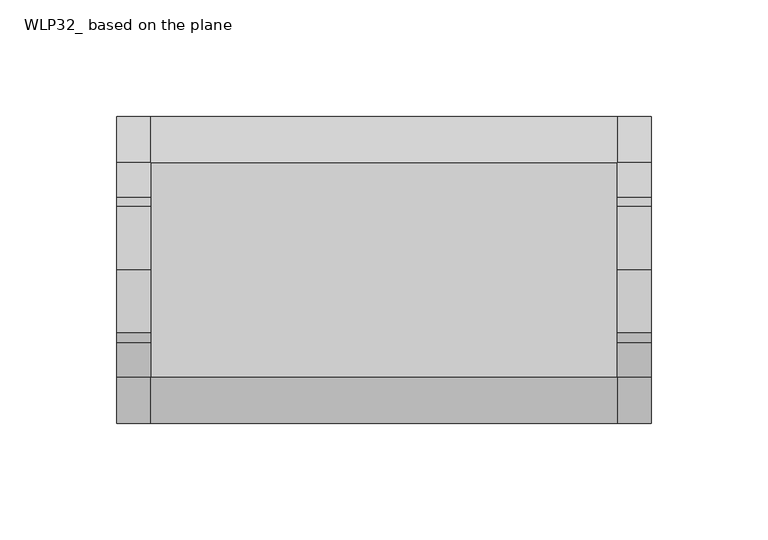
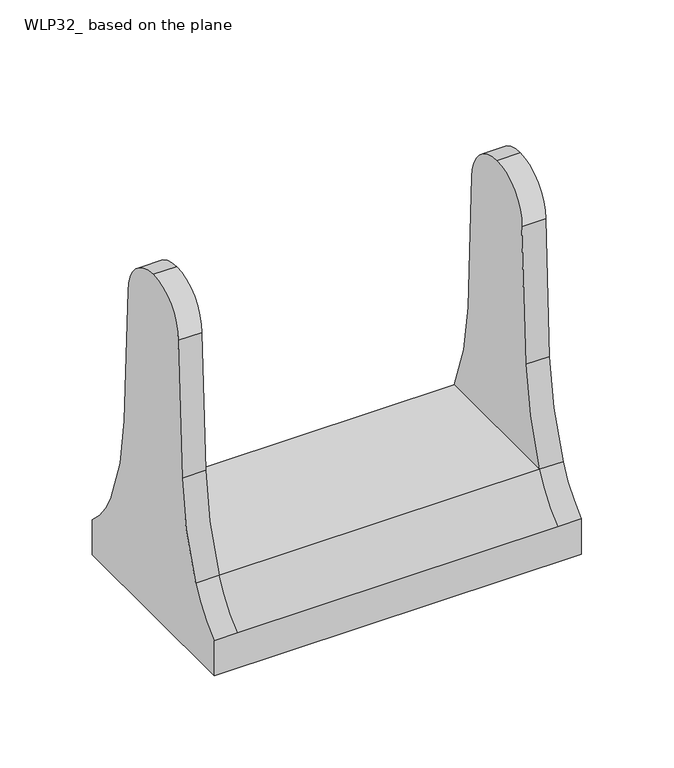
"""IFC4 building model written with IfcOpenShell, lengths in millimetres: light fixture geometry, WLP32_ based on the plane : WLP32-80W-T40."""

from ifc_helpers import new_model, si_unit, point, frame, frame_2d, origin, origin_2d, place, context, project, spatial, polyline, circle_curve, trimmed, segment, composite_curve, outline, extrude, source, transform, mapped, element, save
from ifc_brep_helpers import plane_surface, cylinder_surface, revolved_surface, advanced_brep


def wlp32_based_on_the_plane_f0408ee9(model_context):
    return source(origin(), model_context, "Body", "SolidModel", [
        extrude(outline(polyline([(-77.4999981, -46.0837738), (-77.4999981, 46.0837738), (77.4999252, 46.0837738), (77.4999252, -46.0837738), (-77.4999981, -46.0837738)]), holes=[composite_curve([segment(trimmed(circle_curve(origin_2d(), 25.0000305), [point((-9.5000019, 23.1246944))], [point((9.5000019, 23.1246944))], True, "CARTESIAN"), True, "CONTINUOUS"), segment(polyline([(9.5000019, 23.1246944), (9.5000019, 33.4999695)]), True, "CONTINUOUS"), segment(trimmed(circle_curve(frame_2d((0.0, 33.4999695)), 9.5000019), [point((9.5000019, 33.4999695))], [point((-9.5000019, 33.4999695))], True, "CARTESIAN"), True, "CONTINUOUS"), segment(polyline([(-9.5000019, 33.4999695), (-9.5000019, 23.1246944)]), True, "CONTINUOUS")], self_intersect=False), composite_curve([segment(polyline([(67.5000019, -37.5417709), (61.4419666, -37.5417709)]), True, "CONTINUOUS"), segment(trimmed(circle_curve(frame_2d((61.4419666, -40.0208969)), 2.479126), [point((61.4419666, -37.5417709))], [point((61.4419666, -42.5000229))], True, "CARTESIAN"), True, "CONTINUOUS"), segment(polyline([(61.4419666, -42.5000229), (67.5000019, -42.5000229)]), True, "CONTINUOUS"), segment(trimmed(circle_curve(frame_2d((67.5000019, -40.0208969)), 2.479126), [point((67.5000019, -42.5000229))], [point((67.5000019, -37.5417709))], True, "CARTESIAN"), True, "CONTINUOUS")], self_intersect=False), composite_curve([segment(trimmed(circle_curve(frame_2d((67.5000019, 40.0208969)), 2.479126), [point((67.5000019, 37.5417709))], [point((67.5000019, 42.5000229))], True, "CARTESIAN"), True, "CONTINUOUS"), segment(polyline([(67.5000019, 42.5000229), (61.4419666, 42.5000229)]), True, "CONTINUOUS"), segment(trimmed(circle_curve(frame_2d((61.4419666, 40.0208969)), 2.479126), [point((61.4419666, 42.5000229))], [point((61.4419666, 37.5417709))], True, "CARTESIAN"), True, "CONTINUOUS"), segment(polyline([(61.4419666, 37.5417709), (67.5000019, 37.5417709)]), True, "CONTINUOUS")], self_intersect=False), composite_curve([segment(trimmed(circle_curve(frame_2d((-67.5000019, -40.0208969)), 2.479126), [point((-67.5000019, -37.5417709))], [point((-67.5000019, -42.5000229))], True, "CARTESIAN"), True, "CONTINUOUS"), segment(polyline([(-67.5000019, -42.5000229), (-61.4419666, -42.5000229)]), True, "CONTINUOUS"), segment(trimmed(circle_curve(frame_2d((-61.4419666, -40.0208969)), 2.479126), [point((-61.4419666, -42.5000229))], [point((-61.4419666, -37.5417709))], True, "CARTESIAN"), True, "CONTINUOUS"), segment(polyline([(-61.4419666, -37.5417709), (-67.5000019, -37.5417709)]), True, "CONTINUOUS")], self_intersect=False), composite_curve([segment(polyline([(-67.5000019, 37.5417709), (-61.4419666, 37.5417709)]), True, "CONTINUOUS"), segment(trimmed(circle_curve(frame_2d((-61.4419666, 40.0208969)), 2.479126), [point((-61.4419666, 37.5417709))], [point((-61.4419666, 42.5000229))], True, "CARTESIAN"), True, "CONTINUOUS"), segment(polyline([(-61.4419666, 42.5000229), (-67.5000019, 42.5000229)]), True, "CONTINUOUS"), segment(trimmed(circle_curve(frame_2d((-67.5000019, 40.0208969)), 2.479126), [point((-67.5000019, 42.5000229))], [point((-67.5000019, 37.5417709))], True, "CARTESIAN"), True, "CONTINUOUS")], self_intersect=False), composite_curve([segment(trimmed(circle_curve(origin_2d(), 37.6976615), [point((22.7380905, -30.068138))], [point((29.960342, -22.8799386))], True, "CARTESIAN"), True, "CONTINUOUS"), segment(trimmed(circle_curve(frame_2d((27.8943475, -21.5093333)), 2.4792927), [point((29.960342, -22.8799386))], [point((26.028187, -19.8770535))], True, "CARTESIAN"), True, "CONTINUOUS"), segment(trimmed(circle_curve(origin_2d(), 32.7500194), [point((26.028187, -19.8770535))], [point((19.7538223, -26.1218353))], False, "CARTESIAN"), True, "CONTINUOUS"), segment(trimmed(circle_curve(frame_2d((21.5243387, -27.8844687)), 2.4983204), [point((19.7538223, -26.1218353))], [point((22.7380905, -30.068138))], True, "CARTESIAN"), True, "CONTINUOUS")], self_intersect=False), composite_curve([segment(trimmed(circle_curve(frame_2d((27.7326932, -34.750843)), 2.5303312), [point((25.9620034, -32.9432939))], [point((29.0762661, -36.8949949))], True, "CARTESIAN"), True, "CONTINUOUS"), segment(trimmed(circle_curve(origin_2d(), 46.9752052), [point((29.0762661, -36.8949949))], [point((36.8818491, -29.0929391))], True, "CARTESIAN"), True, "CONTINUOUS"), segment(trimmed(circle_curve(frame_2d((34.7568286, -27.724914)), 2.5272921), [point((36.8818491, -29.0929391))], [point((32.9315562, -25.9768906))], True, "CARTESIAN"), True, "CONTINUOUS"), segment(trimmed(circle_curve(origin_2d(), 41.9438462), [point((32.9315562, -25.9768906))], [point((25.9620034, -32.9432939))], False, "CARTESIAN"), True, "CONTINUOUS")], self_intersect=False), composite_curve([segment(trimmed(circle_curve(frame_2d((-21.5243387, -27.8844687)), 2.4983204), [point((-22.7380905, -30.068138))], [point((-19.7538223, -26.1218353))], True, "CARTESIAN"), True, "CONTINUOUS"), segment(trimmed(circle_curve(origin_2d(), 32.7500194), [point((-19.7538223, -26.1218353))], [point((-26.028187, -19.8770535))], False, "CARTESIAN"), True, "CONTINUOUS"), segment(trimmed(circle_curve(frame_2d((-27.8943475, -21.5093333)), 2.4792927), [point((-26.028187, -19.8770535))], [point((-29.960342, -22.8799386))], True, "CARTESIAN"), True, "CONTINUOUS"), segment(trimmed(circle_curve(origin_2d(), 37.6976615), [point((-29.960342, -22.8799386))], [point((-22.7380905, -30.068138))], True, "CARTESIAN"), True, "CONTINUOUS")], self_intersect=False), composite_curve([segment(trimmed(circle_curve(origin_2d(), 41.9438462), [point((-25.9620034, -32.9432939))], [point((-32.9315562, -25.9768906))], False, "CARTESIAN"), True, "CONTINUOUS"), segment(trimmed(circle_curve(frame_2d((-34.7568286, -27.724914)), 2.5272921), [point((-32.9315562, -25.9768906))], [point((-36.8818491, -29.0929391))], True, "CARTESIAN"), True, "CONTINUOUS"), segment(trimmed(circle_curve(origin_2d(), 46.9752052), [point((-36.8818491, -29.0929391))], [point((-29.0762661, -36.8949949))], True, "CARTESIAN"), True, "CONTINUOUS"), segment(trimmed(circle_curve(frame_2d((-27.7326932, -34.750843)), 2.5303312), [point((-29.0762661, -36.8949949))], [point((-25.9620034, -32.9432939))], True, "CARTESIAN"), True, "CONTINUOUS")], self_intersect=False), composite_curve([segment(trimmed(circle_curve(frame_2d((21.5243387, 27.8844687)), 2.4983204), [point((22.7380905, 30.068138))], [point((19.7538223, 26.1218353))], True, "CARTESIAN"), True, "CONTINUOUS"), segment(trimmed(circle_curve(origin_2d(), 32.7500194), [point((19.7538223, 26.1218353))], [point((26.028187, 19.8770535))], False, "CARTESIAN"), True, "CONTINUOUS"), segment(trimmed(circle_curve(frame_2d((27.8943475, 21.5093333)), 2.4792927), [point((26.028187, 19.8770535))], [point((29.960342, 22.8799386))], True, "CARTESIAN"), True, "CONTINUOUS"), segment(trimmed(circle_curve(origin_2d(), 37.6976615), [point((29.960342, 22.8799386))], [point((22.7380905, 30.068138))], True, "CARTESIAN"), True, "CONTINUOUS")], self_intersect=False), composite_curve([segment(trimmed(circle_curve(origin_2d(), 41.9438462), [point((25.9620034, 32.9432939))], [point((32.9315562, 25.9768906))], False, "CARTESIAN"), True, "CONTINUOUS"), segment(trimmed(circle_curve(frame_2d((34.7568286, 27.724914)), 2.5272921), [point((32.9315562, 25.9768906))], [point((36.8818491, 29.0929391))], True, "CARTESIAN"), True, "CONTINUOUS"), segment(trimmed(circle_curve(origin_2d(), 46.9752052), [point((36.8818491, 29.0929391))], [point((29.0762661, 36.8949949))], True, "CARTESIAN"), True, "CONTINUOUS"), segment(trimmed(circle_curve(frame_2d((27.7326932, 34.750843)), 2.5303312), [point((29.0762661, 36.8949949))], [point((25.9620034, 32.9432939))], True, "CARTESIAN"), True, "CONTINUOUS")], self_intersect=False), composite_curve([segment(trimmed(circle_curve(origin_2d(), 37.6976615), [point((-22.7380905, 30.068138))], [point((-29.960342, 22.8799386))], True, "CARTESIAN"), True, "CONTINUOUS"), segment(trimmed(circle_curve(frame_2d((-27.8943475, 21.5093333)), 2.4792927), [point((-29.960342, 22.8799386))], [point((-26.028187, 19.8770535))], True, "CARTESIAN"), True, "CONTINUOUS"), segment(trimmed(circle_curve(origin_2d(), 32.7500194), [point((-26.028187, 19.8770535))], [point((-19.7538223, 26.1218353))], False, "CARTESIAN"), True, "CONTINUOUS"), segment(trimmed(circle_curve(frame_2d((-21.5243387, 27.8844687)), 2.4983204), [point((-19.7538223, 26.1218353))], [point((-22.7380905, 30.068138))], True, "CARTESIAN"), True, "CONTINUOUS")], self_intersect=False), composite_curve([segment(trimmed(circle_curve(frame_2d((-27.7326932, 34.750843)), 2.5303312), [point((-25.9620034, 32.9432939))], [point((-29.0762661, 36.8949949))], True, "CARTESIAN"), True, "CONTINUOUS"), segment(trimmed(circle_curve(origin_2d(), 46.9752052), [point((-29.0762661, 36.8949949))], [point((-36.8818491, 29.0929391))], True, "CARTESIAN"), True, "CONTINUOUS"), segment(trimmed(circle_curve(frame_2d((-34.7568286, 27.724914)), 2.5272921), [point((-36.8818491, 29.0929391))], [point((-32.9315562, 25.9768906))], True, "CARTESIAN"), True, "CONTINUOUS"), segment(trimmed(circle_curve(origin_2d(), 41.9438462), [point((-32.9315562, 25.9768906))], [point((-25.9620034, 32.9432939))], False, "CARTESIAN"), True, "CONTINUOUS")], self_intersect=False)]), frame((0.0, 0.0, 4.0887742), z_axis=(0.0, 0.0, 1.0), x_axis=(1.0, 0.0, 0.0)), (0.0, 0.0, 1.0), 3.4449947),
        advanced_brep(
        [(-114.696875, 65.88125, 0.0), (114.696875, 65.88125, 0.0), (114.696875, -65.88125, 0.0), (-114.696875, -65.88125, 0.0), (-100.0000057, 46.0837738, 0.0), (-100.0000057, -46.0837738, 0.0), (100.0000057, -46.0837738, 0.0), (100.0000057, 46.0837738, 0.0), (-100.0000057, -65.88125, 23.1485712), (-114.696875, -65.88125, 23.1485712), (114.696875, -65.88125, 23.1485712), (100.0000057, -65.88125, 23.1485712), (100.0000057, -46.0837738, 48.9999928), (-100.0000057, -46.0837738, 48.9999928), (100.0000057, 46.0837738, 48.9999928), (100.0000057, 65.88125, 23.1485712), (-100.0000057, 65.88125, 23.1485712), (-100.0000057, 46.0837738, 48.9999928), (114.696875, 65.88125, 23.1485712), (-114.696875, 65.88125, 23.1485712), (-100.0000057, -46.0837738, 20.4999812), (-100.0000057, 46.0837738, 20.4999812), (100.0000057, 46.0837738, 20.4999812), (100.0000057, -46.0837738, 20.4999812), (114.696875, 46.0837738, 48.9999928), (114.696875, 31.1662216, 109.409161), (114.696875, 27.1380505, 197.8729798), (114.696875, 0.0, 225.0110303), (114.696875, -27.1380505, 197.8729798), (114.696875, -31.1662216, 109.409161), (114.696875, -46.0837738, 48.9999928), (100.0000057, -31.1662216, 109.409161), (100.0000057, -27.1380505, 197.8729798), (100.0000057, 0.0, 225.0110303), (100.0000057, 27.1380505, 197.8729798), (100.0000057, 31.1662216, 109.409161), (-100.0000057, 31.1662216, 109.409161), (-100.0000057, 27.1380505, 197.8729798), (-100.0000057, 0.0, 225.0110303), (-100.0000057, -27.1380505, 197.8729798), (-100.0000057, -31.1662216, 109.409161), (-114.696875, -46.0837738, 48.9999928), (-114.696875, -31.1662216, 109.409161), (-114.696875, -27.1380505, 197.8729798), (-114.696875, 0.0, 225.0110303), (-114.696875, 27.1380505, 197.8729798), (-114.696875, 31.1662216, 109.409161), (-114.696875, 46.0837738, 48.9999928)],
        [
            (0, 1),
            (1, 2),
            (2, 3),
            (3, 0),
            (4, 5),
            (5, 6),
            (6, 7),
            (7, 4),
            (8, 9),
            (9, 3),
            (2, 10),
            (10, 11),
            (11, 8),
            (11, 12, circle_curve(frame((100.0000057, -111.2522031, 78.4007897), z_axis=(1.0, 0.0, 0.0), x_axis=(0.0, 0.0, -1.0)), 71.4935734)),
            (12, 13),
            (13, 8, circle_curve(frame((-100.0000057, -111.2522031, 78.4007897), z_axis=(-1.0, 0.0, 0.0), x_axis=(0.0, 0.0, -1.0)), 71.4935734)),
            (14, 15, circle_curve(frame((100.0000057, 111.2522031, 78.4007897), z_axis=(1.0, 0.0, 0.0), x_axis=(0.0, 0.0, -1.0)), 71.4935734)),
            (15, 16),
            (16, 17, circle_curve(frame((-100.0000057, 111.2522031, 78.4007897), z_axis=(-1.0, 0.0, 0.0), x_axis=(0.0, 0.0, -1.0)), 71.4935734)),
            (17, 14),
            (15, 18),
            (18, 1),
            (0, 19),
            (19, 16),
            (12, 14),
            (17, 13),
            (20, 21),
            (21, 22),
            (22, 23),
            (23, 20),
            (21, 4),
            (7, 22),
            (23, 6),
            (5, 20),
            (18, 24, circle_curve(frame((114.696875, 111.2522031, 78.4007897), z_axis=(-1.0, 0.0, 0.0), x_axis=(0.0, 0.0, -1.0)), 71.4935734)),
            (24, 25, circle_curve(frame((114.696875, 203.0134777, 119.7989735), z_axis=(-1.0, 0.0, 0.0), x_axis=(0.0, 0.0, -1.0)), 172.1610514)),
            (25, 26, circle_curve(frame((114.696875, 3000.9421601, 288.9605588), z_axis=(-1.0, 0.0, 0.0), x_axis=(0.0, 0.0, -1.0)), 2975.1987882)),
            (26, 27, circle_curve(frame((114.696875, 0.0, 197.8729798), z_axis=(1.0, 0.0, 0.0), x_axis=(0.0, 0.0, -1.0)), 27.1380505)),
            (27, 28, circle_curve(frame((114.696875, 0.0, 197.8729798), z_axis=(1.0, 0.0, 0.0), x_axis=(0.0, 0.0, -1.0)), 27.1380505)),
            (28, 29, circle_curve(frame((114.696875, -3000.9421601, 288.9605588), z_axis=(-1.0, 0.0, 0.0), x_axis=(0.0, 0.0, -1.0)), 2975.1987882)),
            (29, 30, circle_curve(frame((114.696875, -203.0134777, 119.7989735), z_axis=(-1.0, 0.0, 0.0), x_axis=(0.0, 0.0, -1.0)), 172.1610514)),
            (30, 10, circle_curve(frame((114.696875, -111.2522031, 78.4007897), z_axis=(-1.0, 0.0, 0.0), x_axis=(0.0, 0.0, -1.0)), 71.4935734)),
            (12, 31, circle_curve(frame((100.0000057, -203.0134777, 119.7989735), z_axis=(1.0, 0.0, 0.0), x_axis=(0.0, 0.0, -1.0)), 172.1610514)),
            (31, 32, circle_curve(frame((100.0000057, -3000.9421601, 288.9605588), z_axis=(1.0, 0.0, 0.0), x_axis=(0.0, 0.0, -1.0)), 2975.1987882)),
            (32, 33, circle_curve(frame((100.0000057, 0.0, 197.8729798), z_axis=(-1.0, 0.0, 0.0), x_axis=(0.0, 0.0, -1.0)), 27.1380505)),
            (33, 34, circle_curve(frame((100.0000057, 0.0, 197.8729798), z_axis=(-1.0, 0.0, 0.0), x_axis=(0.0, 0.0, -1.0)), 27.1380505)),
            (34, 35, circle_curve(frame((100.0000057, 3000.9421601, 288.9605588), z_axis=(1.0, 0.0, 0.0), x_axis=(0.0, 0.0, -1.0)), 2975.1987882)),
            (35, 14, circle_curve(frame((100.0000057, 203.0134777, 119.7989735), z_axis=(1.0, 0.0, 0.0), x_axis=(0.0, 0.0, -1.0)), 172.1610514)),
            (30, 12),
            (29, 31),
            (24, 14),
            (35, 25),
            (17, 36, circle_curve(frame((-100.0000057, 203.0134777, 119.7989735), z_axis=(-1.0, 0.0, 0.0), x_axis=(0.0, 0.0, -1.0)), 172.1610514)),
            (36, 37, circle_curve(frame((-100.0000057, 3000.9421601, 288.9605588), z_axis=(-1.0, 0.0, 0.0), x_axis=(0.0, 0.0, -1.0)), 2975.1987882)),
            (37, 38, circle_curve(frame((-100.0000057, 0.0, 197.8729798), z_axis=(1.0, 0.0, 0.0), x_axis=(0.0, 0.0, -1.0)), 27.1380505)),
            (38, 39, circle_curve(frame((-100.0000057, 0.0, 197.8729798), z_axis=(1.0, 0.0, 0.0), x_axis=(0.0, 0.0, -1.0)), 27.1380505)),
            (39, 40, circle_curve(frame((-100.0000057, -3000.9421601, 288.9605588), z_axis=(-1.0, 0.0, 0.0), x_axis=(0.0, 0.0, -1.0)), 2975.1987882)),
            (40, 13, circle_curve(frame((-100.0000057, -203.0134777, 119.7989735), z_axis=(-1.0, 0.0, 0.0), x_axis=(0.0, 0.0, -1.0)), 172.1610514)),
            (9, 41, circle_curve(frame((-114.696875, -111.2522031, 78.4007897), z_axis=(1.0, 0.0, 0.0), x_axis=(0.0, 0.0, -1.0)), 71.4935734)),
            (41, 42, circle_curve(frame((-114.696875, -203.0134777, 119.7989735), z_axis=(1.0, 0.0, 0.0), x_axis=(0.0, 0.0, -1.0)), 172.1610514)),
            (42, 43, circle_curve(frame((-114.696875, -3000.9421601, 288.9605588), z_axis=(1.0, 0.0, 0.0), x_axis=(0.0, 0.0, -1.0)), 2975.1987882)),
            (43, 44, circle_curve(frame((-114.696875, 0.0, 197.8729798), z_axis=(-1.0, 0.0, 0.0), x_axis=(0.0, 0.0, -1.0)), 27.1380505)),
            (44, 45, circle_curve(frame((-114.696875, 0.0, 197.8729798), z_axis=(-1.0, 0.0, 0.0), x_axis=(0.0, 0.0, -1.0)), 27.1380505)),
            (45, 46, circle_curve(frame((-114.696875, 3000.9421601, 288.9605588), z_axis=(1.0, 0.0, 0.0), x_axis=(0.0, 0.0, -1.0)), 2975.1987882)),
            (46, 47, circle_curve(frame((-114.696875, 203.0134777, 119.7989735), z_axis=(1.0, 0.0, 0.0), x_axis=(0.0, 0.0, -1.0)), 172.1610514)),
            (47, 19, circle_curve(frame((-114.696875, 111.2522031, 78.4007897), z_axis=(1.0, 0.0, 0.0), x_axis=(0.0, 0.0, -1.0)), 71.4935734)),
            (13, 41),
            (40, 42),
            (17, 47),
            (46, 36),
            (39, 43),
            (38, 44),
            (37, 45),
            (28, 32),
            (27, 33),
            (26, 34),
        ],
        [
            plane_surface(frame((100.0000057, 65.88125, 0.0), z_axis=(0.0, 0.0, -1.0), x_axis=(-1.0, 0.0, 0.0))),
            plane_surface(frame((100.0000057, -65.88125, 0.0), z_axis=(0.0, -1.0, 0.0), x_axis=(-1.0, 0.0, 0.0))),
            revolved_surface(polyline([(-100.0000057, -111.2522031, 6.907216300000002), (100.0000057, -111.2522031, 6.907216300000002)]), (-100.0000057, -111.2522031, 78.4007897), (-1.0, 0.0, 0.0)),
            revolved_surface(polyline([(-100.0000057, 111.2522031, 6.907216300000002), (100.0000057, 111.2522031, 6.907216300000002)]), (-100.0000057, 111.2522031, 78.4007897), (-1.0, 0.0, 0.0)),
            plane_surface(frame((100.0000057, 65.88125, 23.1485712), z_axis=(0.0, 1.0, 0.0), x_axis=(-1.0, 0.0, 0.0))),
            plane_surface(frame((100.0000057, -46.0837738, 48.9999928), z_axis=(0.0, 0.0, 1.0), x_axis=(-1.0, 0.0, 0.0))),
            plane_surface(frame((-100.0000057, -46.0837738, 20.4999812), z_axis=(0.0, 0.0, -1.0), x_axis=(0.0, 1.0, 0.0))),
            plane_surface(frame((-100.0000057, 46.0837738, 20.4999812), z_axis=(0.0, -1.0, 0.0), x_axis=(0.0, 0.0, -1.0))),
            plane_surface(frame((100.0000057, -46.0837738, 20.4999812), z_axis=(0.0, 1.0, 0.0), x_axis=(0.0, 0.0, -1.0))),
            plane_surface(frame((114.696875, -65.88125, 0.0), z_axis=(1.0, 0.0, 0.0), x_axis=(0.0, -1.0, 0.0))),
            plane_surface(frame((100.0000057, -65.88125, 0.0), z_axis=(-1.0, 0.0, 0.0), x_axis=(0.0, 1.0, 0.0))),
            revolved_surface(polyline([(100.0000057, -111.2522031, 6.907216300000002), (114.696875, -111.2522031, 6.907216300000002)]), (100.0000057, -111.2522031, 78.4007897), (-1.0, 0.0, 0.0)),
            revolved_surface(polyline([(100.0000057, -203.0134777, -52.36207789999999), (114.696875, -203.0134777, -52.36207789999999)]), (100.0000057, -203.0134777, 119.7989735), (-1.0, 0.0, 0.0)),
            revolved_surface(polyline([(100.0000057, 203.0134777, -52.36207789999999), (114.696875, 203.0134777, -52.36207789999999)]), (100.0000057, 203.0134777, 119.7989735), (-1.0, 0.0, 0.0)),
            revolved_surface(polyline([(100.0000057, 111.2522031, 6.907216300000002), (114.696875, 111.2522031, 6.907216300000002)]), (100.0000057, 111.2522031, 78.4007897), (-1.0, 0.0, 0.0)),
            plane_surface(frame((-100.0000057, -65.88125, 0.0), z_axis=(1.0, 0.0, 0.0), x_axis=(0.0, -1.0, 0.0))),
            plane_surface(frame((-114.696875, -65.88125, 0.0), z_axis=(-1.0, 0.0, 0.0), x_axis=(0.0, 1.0, 0.0))),
            revolved_surface(polyline([(-114.696875, -111.2522031, 6.907216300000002), (-100.0000057, -111.2522031, 6.907216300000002)]), (-114.696875, -111.2522031, 78.4007897), (-1.0, 0.0, 0.0)),
            revolved_surface(polyline([(-114.696875, -203.0134777, -52.36207789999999), (-100.0000057, -203.0134777, -52.36207789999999)]), (-114.696875, -203.0134777, 119.7989735), (-1.0, 0.0, 0.0)),
            revolved_surface(polyline([(-114.696875, 203.0134777, -52.36207789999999), (-100.0000057, 203.0134777, -52.36207789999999)]), (-114.696875, 203.0134777, 119.7989735), (-1.0, 0.0, 0.0)),
            revolved_surface(polyline([(-114.696875, 111.2522031, 6.907216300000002), (-100.0000057, 111.2522031, 6.907216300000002)]), (-114.696875, 111.2522031, 78.4007897), (-1.0, 0.0, 0.0)),
            revolved_surface(polyline([(-114.696875, -3000.9421601, -2686.2382294), (-100.0000057, -3000.9421601, -2686.2382294)]), (-114.696875, -3000.9421601, 288.9605588), (-1.0, 0.0, 0.0)),
            cylinder_surface(frame((-114.696875, 0.0, 197.8729798), z_axis=(1.0, 0.0, 0.0), x_axis=(0.0, 0.0, -1.0)), 27.1380505),
            revolved_surface(polyline([(-114.696875, 3000.9421601, -2686.2382294), (-100.0000057, 3000.9421601, -2686.2382294)]), (-114.696875, 3000.9421601, 288.9605588), (-1.0, 0.0, 0.0)),
            revolved_surface(polyline([(100.0000057, -3000.9421601, -2686.2382294), (114.696875, -3000.9421601, -2686.2382294)]), (100.0000057, -3000.9421601, 288.9605588), (-1.0, 0.0, 0.0)),
            cylinder_surface(frame((100.0000057, 0.0, 197.8729798), z_axis=(1.0, 0.0, 0.0), x_axis=(0.0, 0.0, -1.0)), 27.1380505),
            revolved_surface(polyline([(100.0000057, 3000.9421601, -2686.2382294), (114.696875, 3000.9421601, -2686.2382294)]), (100.0000057, 3000.9421601, 288.9605588), (-1.0, 0.0, 0.0)),
        ],
        [
            (0, [[1, 2, 3, 4], [5, 6, 7, 8]]),
            (1, [[9, 10, -3, 11, 12, 13]]),
            (2, [[14, 15, 16, -13]]),
            (3, [[17, 18, 19, 20]]),
            (4, [[21, 22, -1, 23, 24, -18]]),
            (5, [[25, -20, 26, -15]]),
            (6, [[27, 28, 29, 30]]),
            (7, [[31, -8, 32, -28]]),
            (8, [[33, -6, 34, -30]]),
            (9, [[-22, 35, 36, 37, 38, 39, 40, 41, 42, -11, -2]]),
            (10, [[-25, 43, 44, 45, 46, 47, 48]]),
            (10, [[-33, -29, -32, -7]]),
            (11, [[49, -14, -12, -42]]),
            (12, [[50, -43, -49, -41]]),
            (13, [[51, -48, 52, -36]]),
            (14, [[-21, -17, -51, -35]]),
            (15, [[-26, 53, 54, 55, 56, 57, 58]]),
            (15, [[-31, -27, -34, -5]]),
            (16, [[-4, -10, 59, 60, 61, 62, 63, 64, 65, 66, -23]]),
            (17, [[-9, -16, 67, -59]]),
            (18, [[68, -60, -67, -58]]),
            (19, [[69, -65, 70, -53]]),
            (20, [[-69, -19, -24, -66]]),
            (21, [[71, -61, -68, -57]]),
            (22, [[72, -62, -71, -56]]),
            (22, [[73, -63, -72, -55]]),
            (23, [[-70, -64, -73, -54]]),
            (24, [[74, -44, -50, -40]]),
            (25, [[75, -45, -74, -39]]),
            (25, [[76, -46, -75, -38]]),
            (26, [[-52, -47, -76, -37]]),
        ],
    ),
    ])


if __name__ == "__main__":
    model = new_model("IFC4")
    model_context = context("Model", 3, world=origin())
    ifc_project = project(units=[si_unit("LENGTHUNIT", "METRE", prefix="MILLI")], contexts=[model_context])
    site = spatial("IfcSite", under=ifc_project)
    building = spatial("IfcBuilding", under=site)
    placement = place(None, origin())
    wlp32_based_on_the_plane_shape = wlp32_based_on_the_plane_f0408ee9(model_context)
    element("IfcLightFixture", 1, ObjectType="WLP32_ based on the plane : WLP32-80W-T40", at=placement, inside=building, context=model_context, shape_type="MappedRepresentation", body=[
        mapped(wlp32_based_on_the_plane_shape, transform((0.0, 0.0, 0.0), x_axis=(1.0, 0.0, 0.0), y_axis=(0.0, 1.0, 0.0), z_axis=(0.0, 0.0, 1.0))),
    ])
    save(model, "model.ifc")
